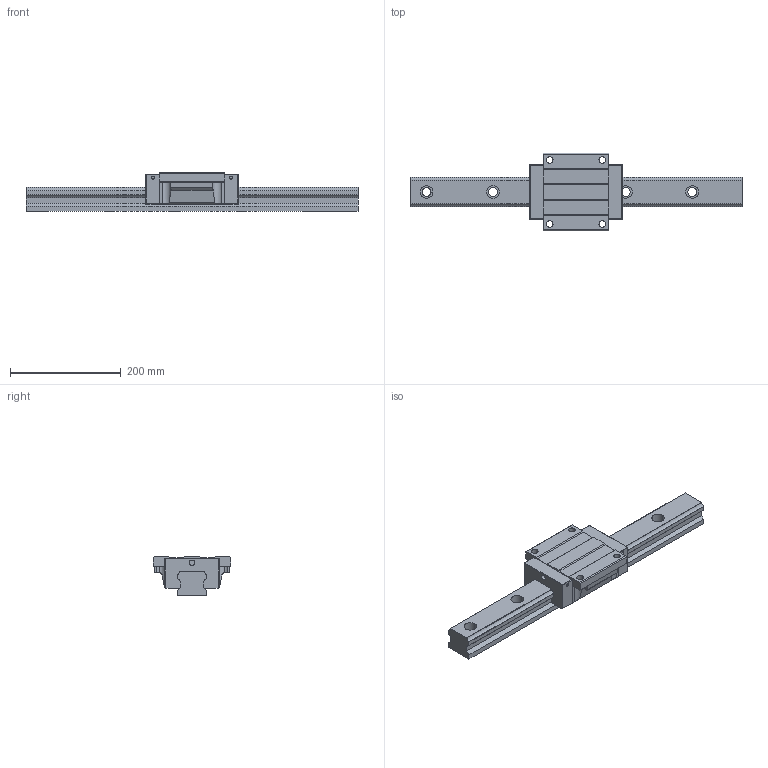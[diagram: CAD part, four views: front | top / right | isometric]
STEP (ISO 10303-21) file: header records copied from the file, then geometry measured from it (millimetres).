
FILE_DESCRIPTION (( 'STEP AP203' ), '1' );
FILE_NAME ('TRH55FL-SU.STEP', '2024-06-26T05:59:53', ( '' ), ( '' ), 'SwSTEP 2.0', 'SolidWorks 2022', '' );
FILE_SCHEMA (( 'CONFIG_CONTROL_DESIGN' ));
Length unit declared in the file: millimetre
Products named in the file (1): TRH55FL-SU
Bounding box: 600 x 140 x 70 mm (x, y, z)
Volume: 1926078.9 mm3; surface area: 221754 mm2
Topology: 2 solids, 2 shells, 201 faces, 546 edges, 356 vertices
Faces by surface type: plane 101, cylinder 96, sphere 4
Entity records: 6519 total; most frequent: CARTESIAN_POINT 1230, DIRECTION 1108, ORIENTED_EDGE 1084, EDGE_CURVE 542, AXIS2_PLACEMENT_3D 384, VERTEX_POINT 356, VECTOR 340, LINE 340
